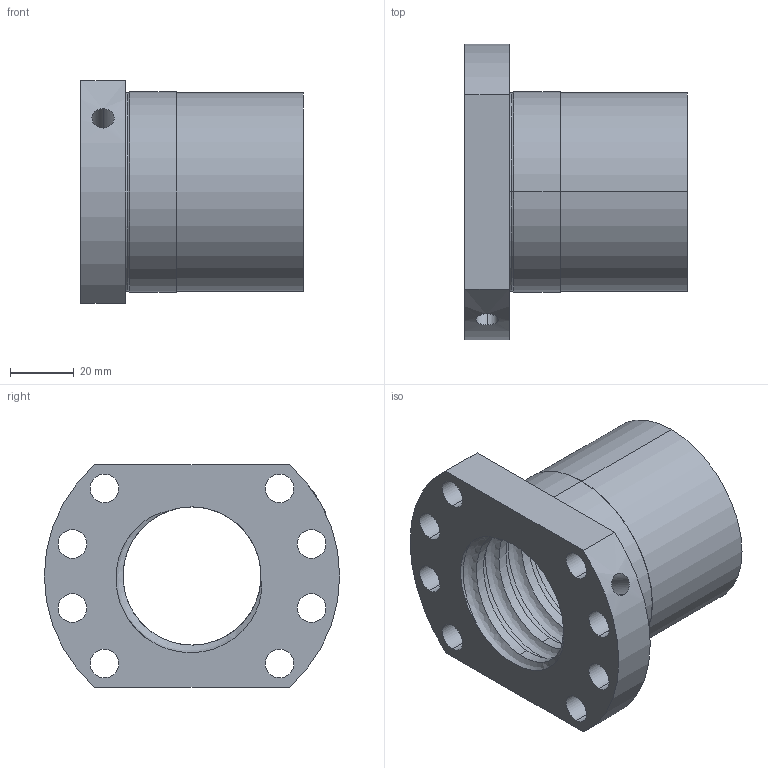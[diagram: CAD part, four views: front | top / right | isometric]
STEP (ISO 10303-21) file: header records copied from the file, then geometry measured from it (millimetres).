
FILE_DESCRIPTION (( 'STEP AP214' ), '1' );
FILE_NAME ('LLE4010-F.STEP', '2020-12-17T06:56:48', ( 'user' ), ( 'datathink' ), 'SwSTEP 2.0', 'SolidWorks 2013', '' );
FILE_SCHEMA (( 'AUTOMOTIVE_DESIGN' ));
Length unit declared in the file: millimetre
Products named in the file (1): LLE4010-F
Bounding box: 70 x 93 x 70 mm (x, y, z)
Volume: 130153 mm3; surface area: 38384.5 mm2
Topology: 1 solids, 1 shells, 54 faces, 148 edges, 97 vertices
Faces by surface type: cylinder 40, plane 7, torus 4, bspline 3
Entity records: 5415 total; most frequent: CARTESIAN_POINT 4026, ORIENTED_EDGE 296, DIRECTION 264, EDGE_CURVE 148, AXIS2_PLACEMENT_3D 109, VERTEX_POINT 97, EDGE_LOOP 75, CIRCLE 57
